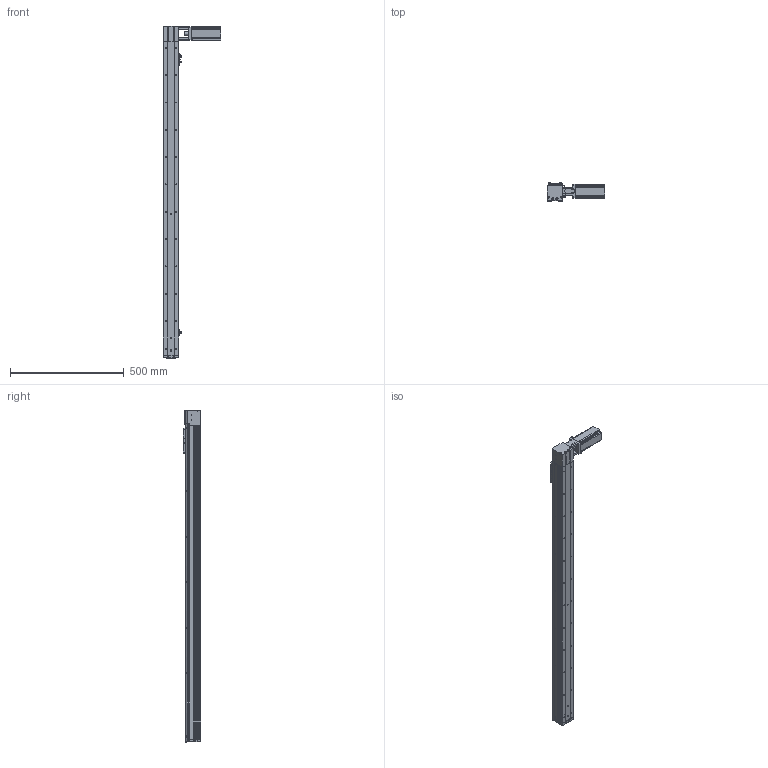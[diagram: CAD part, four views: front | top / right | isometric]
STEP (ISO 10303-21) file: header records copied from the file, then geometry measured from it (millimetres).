
FILE_DESCRIPTION (( 'STEP AP214' ), '1' );
FILE_NAME ('KSD68BS-S1200-MRT-CR.STEP', '2019-08-27T07:23:24', ( '微软用户' ), ( '微软中国' ), 'SwSTEP 2.0', 'SolidWorks 2014', '' );
FILE_SCHEMA (( 'AUTOMOTIVE_DESIGN' ));
Length unit declared in the file: millimetre
Products named in the file (13): KSD68BS-S1200-MRT-CR; KSD68BS 1200行程底板全封闭; 台达ECMA－C20604AS伺服电机（400W); U倰嫖萇EEㄜSX672; 感应片68宽全封闭; 68单导轨全封闭同步带安装板; 68单导轨全封闭同步带电机座左; 68宽单导轨全封闭同步带端板; KSD68BS 1200行程侧板全封闭; 68宽单导轨全封闭丝杆传动安装板1防护罩; 68遵裔啣揤啣1; KSD68BS 1200行程盖板全封闭; 100遵鎮湛假蚾啣1
Assembly tree (16 placements, depth 2):
  KSD68BS-S1200-MRT-CR
    KSD68BS 1200行程底板全封闭
    台达ECMA－C20604AS伺服电机（400W)
    U倰嫖萇EEㄜSX672  x3
    感应片68宽全封闭
    68单导轨全封闭同步带安装板
    68单导轨全封闭同步带电机座左
    68宽单导轨全封闭同步带端板
    KSD68BS 1200行程侧板全封闭  x2
    68宽单导轨全封闭丝杆传动安装板1防护罩
    68遵裔啣揤啣1  x2
    KSD68BS 1200行程盖板全封闭
    100遵鎮湛假蚾啣1
Bounding box: 252.7 x 77 x 1458.1 mm (x, y, z)
Volume: 2756755.6 mm3; surface area: 1059271.9 mm2
Topology: 17 solids, 17 shells, 1455 faces, 4160 edges, 2648 vertices
Faces by surface type: cylinder 677, plane 602, cone 176
Entity records: 46114 total; most frequent: CARTESIAN_POINT 8077, DIRECTION 6819, ORIENTED_EDGE 6556, EDGE_CURVE 3278, AXIS2_PLACEMENT_3D 2458, VERTEX_POINT 2146, LINE 1903, VECTOR 1903
